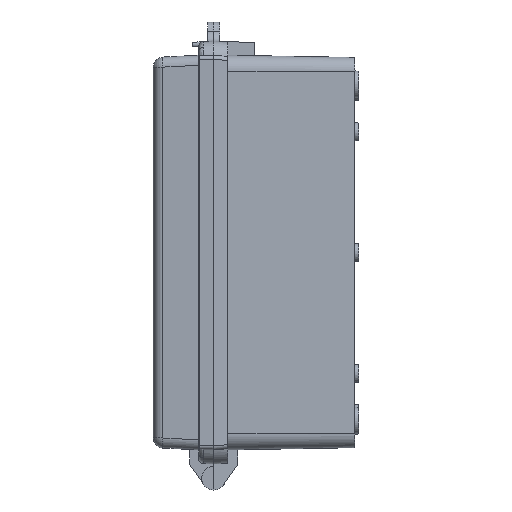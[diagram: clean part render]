
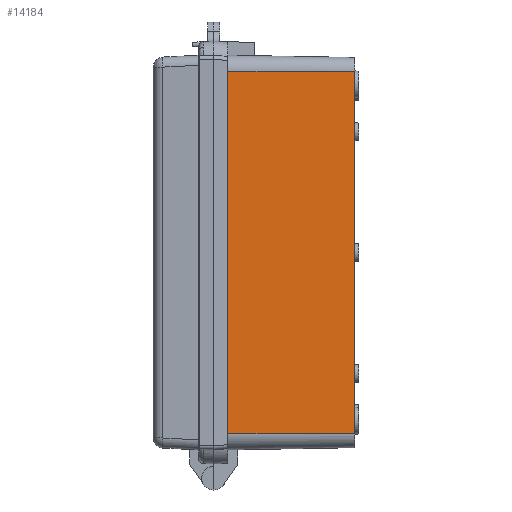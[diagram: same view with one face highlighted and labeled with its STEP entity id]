
A CAD part, left-side view. The second image highlights one B-rep face of the part: STEP entity #14184.
In plain terms, the highlighted planar face has unit normal (-1, -0.018, 0).
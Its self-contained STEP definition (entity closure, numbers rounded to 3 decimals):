
#41 = LINE ( 'NONE', #11619, #11424 ) ;
#144 = VERTEX_POINT ( 'NONE', #13166 ) ;
#275 = CARTESIAN_POINT ( 'NONE',  ( -98.07, -3., -99.993 ) ) ;
#418 = VECTOR ( 'NONE', #10973, 1000. ) ;
#437 = DIRECTION ( 'NONE',  ( 0., 0., -1. ) ) ;
#826 = VERTEX_POINT ( 'NONE', #5711 ) ;
#990 = ORIENTED_EDGE ( 'NONE', *, *, #3169, .T. ) ;
#1106 = EDGE_CURVE ( 'NONE', #4516, #14678, #15530, .T. ) ;
#1282 = EDGE_CURVE ( 'NONE', #2300, #7066, #10924, .T. ) ;
#1667 = ORIENTED_EDGE ( 'NONE', *, *, #14266, .T. ) ;
#1679 = CARTESIAN_POINT ( 'NONE',  ( -96.9, -70., -99.993 ) ) ;
#1777 = EDGE_CURVE ( 'NONE', #7066, #8926, #8102, .T. ) ;
#2112 = EDGE_LOOP ( 'NONE', ( #8855, #13071, #1667, #13661, #15587, #18163, #990, #10986, #3359, #7455, #11586, #9445, #17394, #2640, #17265, #10609 ) ) ;
#2300 = VERTEX_POINT ( 'NONE', #14235 ) ;
#2632 = CARTESIAN_POINT ( 'NONE',  ( -98.07, -3., -99.993 ) ) ;
#2640 = ORIENTED_EDGE ( 'NONE', *, *, #1282, .T. ) ;
#2742 = LINE ( 'NONE', #2632, #16192 ) ;
#2763 = CARTESIAN_POINT ( 'NONE',  ( -98.098, -1.386, -81.541 ) ) ;
#2946 = EDGE_CURVE ( 'NONE', #12235, #7797, #18491, .T. ) ;
#3007 = CARTESIAN_POINT ( 'NONE',  ( -98.219, 5.558, -2.149 ) ) ;
#3086 = LINE ( 'NONE', #2763, #8655 ) ;
#3115 = LINE ( 'NONE', #11141, #7493 ) ;
#3169 = EDGE_CURVE ( 'NONE', #18941, #20493, #2742, .T. ) ;
#3359 = ORIENTED_EDGE ( 'NONE', *, *, #6853, .T. ) ;
#3811 = VECTOR ( 'NONE', #437, 1000. ) ;
#4292 = CARTESIAN_POINT ( 'NONE',  ( -96.9, -70., -90.071 ) ) ;
#4516 = VERTEX_POINT ( 'NONE', #9217 ) ;
#5095 = CARTESIAN_POINT ( 'NONE',  ( -98.07, -3., -99.993 ) ) ;
#5198 = DIRECTION ( 'NONE',  ( 0.017, -0.996, -0.087 ) ) ;
#5711 = CARTESIAN_POINT ( 'NONE',  ( -98., -7., 78.95 ) ) ;
#5957 = FACE_OUTER_BOUND ( 'NONE', #2112, .T. ) ;
#5984 = DIRECTION ( 'NONE',  ( -0.017, 0.996, -0.087 ) ) ;
#6001 = DIRECTION ( 'NONE',  ( -0.017, 0.996, -0.087 ) ) ;
#6209 = VECTOR ( 'NONE', #12541, 1000. ) ;
#6273 = CARTESIAN_POINT ( 'NONE',  ( -98.07, -3., -78.6 ) ) ;
#6395 = CARTESIAN_POINT ( 'NONE',  ( -98.07, -3., -81.4 ) ) ;
#6584 = DIRECTION ( 'NONE',  ( -1., -0.017, 0. ) ) ;
#6622 = EDGE_CURVE ( 'NONE', #20493, #19191, #20206, .T. ) ;
#6853 = EDGE_CURVE ( 'NONE', #19191, #826, #14172, .T. ) ;
#7066 = VERTEX_POINT ( 'NONE', #11340 ) ;
#7108 = AXIS2_PLACEMENT_3D ( 'NONE', #7661, #6584, #16329 ) ;
#7455 = ORIENTED_EDGE ( 'NONE', *, *, #11588, .T. ) ;
#7493 = VECTOR ( 'NONE', #17674, 1000. ) ;
#7536 = VERTEX_POINT ( 'NONE', #11744 ) ;
#7661 = CARTESIAN_POINT ( 'NONE',  ( -98.07, -3., -99.993 ) ) ;
#7797 = VERTEX_POINT ( 'NONE', #10760 ) ;
#8102 = LINE ( 'NONE', #275, #14435 ) ;
#8512 = DIRECTION ( 'NONE',  ( -0.017, 1., 0. ) ) ;
#8529 = DIRECTION ( 'NONE',  ( 0.017, -0.996, -0.087 ) ) ;
#8547 = EDGE_CURVE ( 'NONE', #14678, #13031, #3086, .T. ) ;
#8642 = VERTEX_POINT ( 'NONE', #9824 ) ;
#8655 = VECTOR ( 'NONE', #5984, 1000. ) ;
#8705 = CARTESIAN_POINT ( 'NONE',  ( -98., -7., 81.05 ) ) ;
#8855 = ORIENTED_EDGE ( 'NONE', *, *, #1106, .T. ) ;
#8926 = VERTEX_POINT ( 'NONE', #6273 ) ;
#9125 = EDGE_CURVE ( 'NONE', #8642, #18941, #41, .T. ) ;
#9217 = CARTESIAN_POINT ( 'NONE',  ( -98., -7., -78.95 ) ) ;
#9394 = LINE ( 'NONE', #1679, #20809 ) ;
#9445 = ORIENTED_EDGE ( 'NONE', *, *, #14201, .T. ) ;
#9824 = CARTESIAN_POINT ( 'NONE',  ( -96.9, -70., 90.071 ) ) ;
#10249 = CARTESIAN_POINT ( 'NONE',  ( -98.07, -3., -99.993 ) ) ;
#10609 = ORIENTED_EDGE ( 'NONE', *, *, #15090, .T. ) ;
#10633 = CARTESIAN_POINT ( 'NONE',  ( -98.07, -3., 78.6 ) ) ;
#10655 = CARTESIAN_POINT ( 'NONE',  ( -98.07, -3., 81.4 ) ) ;
#10760 = CARTESIAN_POINT ( 'NONE',  ( -98.07, -3., 1.4 ) ) ;
#10917 = LINE ( 'NONE', #16156, #18304 ) ;
#10924 = LINE ( 'NONE', #3007, #6209 ) ;
#10973 = DIRECTION ( 'NONE',  ( 0., 0., -1. ) ) ;
#10986 = ORIENTED_EDGE ( 'NONE', *, *, #6622, .T. ) ;
#11141 = CARTESIAN_POINT ( 'NONE',  ( -98.037, -4.857, -78.762 ) ) ;
#11298 = LINE ( 'NONE', #5095, #15647 ) ;
#11340 = CARTESIAN_POINT ( 'NONE',  ( -98.07, -3., -1.4 ) ) ;
#11424 = VECTOR ( 'NONE', #8512, 1000. ) ;
#11509 = LINE ( 'NONE', #18156, #17361 ) ;
#11586 = ORIENTED_EDGE ( 'NONE', *, *, #2946, .T. ) ;
#11588 = EDGE_CURVE ( 'NONE', #826, #12235, #10917, .T. ) ;
#11619 = CARTESIAN_POINT ( 'NONE',  ( -98.07, -3., 90.071 ) ) ;
#11744 = CARTESIAN_POINT ( 'NONE',  ( -98.07, -3., -90.071 ) ) ;
#12235 = VERTEX_POINT ( 'NONE', #10633 ) ;
#12490 = PLANE ( 'NONE',  #7108 ) ;
#12541 = DIRECTION ( 'NONE',  ( -0.017, 0.996, -0.087 ) ) ;
#12650 = DIRECTION ( 'NONE',  ( 0., 0., -1. ) ) ;
#13031 = VERTEX_POINT ( 'NONE', #6395 ) ;
#13071 = ORIENTED_EDGE ( 'NONE', *, *, #8547, .T. ) ;
#13127 = DIRECTION ( 'NONE',  ( 0., 0., -1. ) ) ;
#13166 = CARTESIAN_POINT ( 'NONE',  ( -98., -7., 1.05 ) ) ;
#13661 = ORIENTED_EDGE ( 'NONE', *, *, #16532, .T. ) ;
#13702 = DIRECTION ( 'NONE',  ( 0.017, -1., 0. ) ) ;
#14172 = LINE ( 'NONE', #20728, #418 ) ;
#14184 = ADVANCED_FACE ( 'NONE', ( #5957 ), #12490, .T. ) ;
#14201 = EDGE_CURVE ( 'NONE', #7797, #144, #11509, .T. ) ;
#14235 = CARTESIAN_POINT ( 'NONE',  ( -98., -7., -1.05 ) ) ;
#14266 = EDGE_CURVE ( 'NONE', #13031, #7536, #11298, .T. ) ;
#14348 = LINE ( 'NONE', #17249, #20846 ) ;
#14435 = VECTOR ( 'NONE', #18595, 1000. ) ;
#14678 = VERTEX_POINT ( 'NONE', #17803 ) ;
#14888 = EDGE_CURVE ( 'NONE', #144, #2300, #14348, .T. ) ;
#15090 = EDGE_CURVE ( 'NONE', #8926, #4516, #3115, .T. ) ;
#15530 = LINE ( 'NONE', #18538, #3811 ) ;
#15587 = ORIENTED_EDGE ( 'NONE', *, *, #20105, .F. ) ;
#15647 = VECTOR ( 'NONE', #13127, 1000. ) ;
#16156 = CARTESIAN_POINT ( 'NONE',  ( -98.34, 12.501, 77.244 ) ) ;
#16192 = VECTOR ( 'NONE', #19022, 1000. ) ;
#16329 = DIRECTION ( 'NONE',  ( 0.017, -1., 0. ) ) ;
#16344 = DIRECTION ( 'NONE',  ( 0., 0., -1. ) ) ;
#16532 = EDGE_CURVE ( 'NONE', #7536, #20868, #17124, .T. ) ;
#17124 = LINE ( 'NONE', #20349, #20204 ) ;
#17249 = CARTESIAN_POINT ( 'NONE',  ( -98., -7., -99.993 ) ) ;
#17265 = ORIENTED_EDGE ( 'NONE', *, *, #1777, .T. ) ;
#17361 = VECTOR ( 'NONE', #5198, 1000. ) ;
#17394 = ORIENTED_EDGE ( 'NONE', *, *, #14888, .T. ) ;
#17674 = DIRECTION ( 'NONE',  ( 0.017, -0.996, -0.087 ) ) ;
#17803 = CARTESIAN_POINT ( 'NONE',  ( -98., -7., -81.05 ) ) ;
#18156 = CARTESIAN_POINT ( 'NONE',  ( -97.916, -11.801, 0.63 ) ) ;
#18163 = ORIENTED_EDGE ( 'NONE', *, *, #9125, .T. ) ;
#18304 = VECTOR ( 'NONE', #6001, 1000. ) ;
#18381 = CARTESIAN_POINT ( 'NONE',  ( -97.795, -18.745, 80.022 ) ) ;
#18491 = LINE ( 'NONE', #10249, #20981 ) ;
#18538 = CARTESIAN_POINT ( 'NONE',  ( -98., -7., -99.993 ) ) ;
#18595 = DIRECTION ( 'NONE',  ( 0., 0., -1. ) ) ;
#18941 = VERTEX_POINT ( 'NONE', #19439 ) ;
#19022 = DIRECTION ( 'NONE',  ( 0., 0., -1. ) ) ;
#19191 = VERTEX_POINT ( 'NONE', #8705 ) ;
#19439 = CARTESIAN_POINT ( 'NONE',  ( -98.07, -3., 90.071 ) ) ;
#20105 = EDGE_CURVE ( 'NONE', #8642, #20868, #9394, .T. ) ;
#20204 = VECTOR ( 'NONE', #13702, 1000. ) ;
#20206 = LINE ( 'NONE', #18381, #20609 ) ;
#20215 = DIRECTION ( 'NONE',  ( 0., 0., -1. ) ) ;
#20349 = CARTESIAN_POINT ( 'NONE',  ( -98.07, -3., -90.071 ) ) ;
#20493 = VERTEX_POINT ( 'NONE', #10655 ) ;
#20609 = VECTOR ( 'NONE', #8529, 1000. ) ;
#20728 = CARTESIAN_POINT ( 'NONE',  ( -98., -7., -99.993 ) ) ;
#20809 = VECTOR ( 'NONE', #16344, 1000. ) ;
#20846 = VECTOR ( 'NONE', #12650, 1000. ) ;
#20868 = VERTEX_POINT ( 'NONE', #4292 ) ;
#20981 = VECTOR ( 'NONE', #20215, 1000. ) ;
